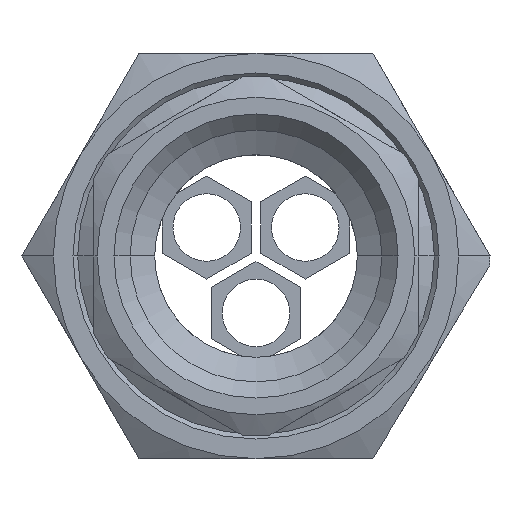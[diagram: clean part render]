
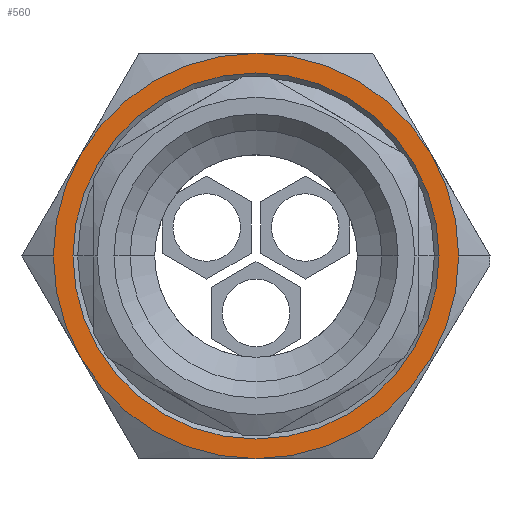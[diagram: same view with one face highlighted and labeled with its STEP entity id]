
A CAD part, front view. The second image highlights one B-rep face of the part: STEP entity #560.
In plain terms, the highlighted planar face has unit normal (0, -1, 0) as drawn and (1, 0, 0) by its records, which use the part's own axes.
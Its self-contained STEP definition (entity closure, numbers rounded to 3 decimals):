
#10=CARTESIAN_POINT('',(221.708,28.002,
0.));
#20=DIRECTION('',(1.,0.,0.));
#30=DIRECTION('',(0.,-1.,0.));
#40=AXIS2_PLACEMENT_3D('',#10,#20,#30);
#50=PLANE('',#40);
#60=CARTESIAN_POINT('',(221.708,13.727,
0.));
#70=DIRECTION('',(-1.,0.,0.));
#80=DIRECTION('',(0.,1.,0.));
#90=AXIS2_PLACEMENT_3D('',#60,#70,#80);
#100=CIRCLE('',#90,13.55);
#110=CARTESIAN_POINT('',(221.708,27.277,
0.));
#120=VERTEX_POINT('',#110);
#130=CARTESIAN_POINT('',(221.708,0.177,
0.));
#140=VERTEX_POINT('',#130);
#150=EDGE_CURVE('',#120,#140,#100,.T.);
#160=ORIENTED_EDGE('',*,*,#150,.T.);
#170=EDGE_CURVE('',#140,#120,#100,.T.);
#180=ORIENTED_EDGE('',*,*,#170,.T.);
#190=EDGE_LOOP('',(#180,#160));
#200=FACE_BOUND('',#190,.T.);
#210=CARTESIAN_POINT('',(221.708,13.727,
0.));
#220=DIRECTION('',(-1.,0.,0.));
#230=DIRECTION('',(0.,1.,0.));
#240=AXIS2_PLACEMENT_3D('',#210,#220,#230);
#250=CIRCLE('',#240,15.);
#260=CARTESIAN_POINT('',(221.708,13.727,-15.));
#270=VERTEX_POINT('',#260);
#280=CARTESIAN_POINT('',(221.708,0.736,
-7.5));
#290=VERTEX_POINT('',#280);
#300=EDGE_CURVE('',#270,#290,#250,.T.);
#310=ORIENTED_EDGE('',*,*,#300,.F.);
#320=CARTESIAN_POINT('',(221.708,-1.273,
0.));
#330=VERTEX_POINT('',#320);
#340=EDGE_CURVE('',#290,#330,#250,.T.);
#350=ORIENTED_EDGE('',*,*,#340,.F.);
#360=CARTESIAN_POINT('',(221.708,0.736,
7.5));
#370=VERTEX_POINT('',#360);
#380=EDGE_CURVE('',#330,#370,#250,.T.);
#390=ORIENTED_EDGE('',*,*,#380,.F.);
#400=CARTESIAN_POINT('',(221.708,13.727,15.));
#410=VERTEX_POINT('',#400);
#420=EDGE_CURVE('',#370,#410,#250,.T.);
#430=ORIENTED_EDGE('',*,*,#420,.F.);
#440=CARTESIAN_POINT('',(221.708,26.717,
7.5));
#450=VERTEX_POINT('',#440);
#460=EDGE_CURVE('',#410,#450,#250,.T.);
#470=ORIENTED_EDGE('',*,*,#460,.F.);
#480=CARTESIAN_POINT('',(221.708,28.727,
0.));
#490=VERTEX_POINT('',#480);
#500=EDGE_CURVE('',#450,#490,#250,.T.);
#510=ORIENTED_EDGE('',*,*,#500,.F.);
#520=EDGE_CURVE('',#490,#270,#250,.T.);
#530=ORIENTED_EDGE('',*,*,#520,.F.);
#540=EDGE_LOOP('',(#530,#510,#470,#430,#390,#350,#310));
#550=FACE_OUTER_BOUND('',#540,.T.);
#560=ADVANCED_FACE('',(#200,#550),#50,.T.);
